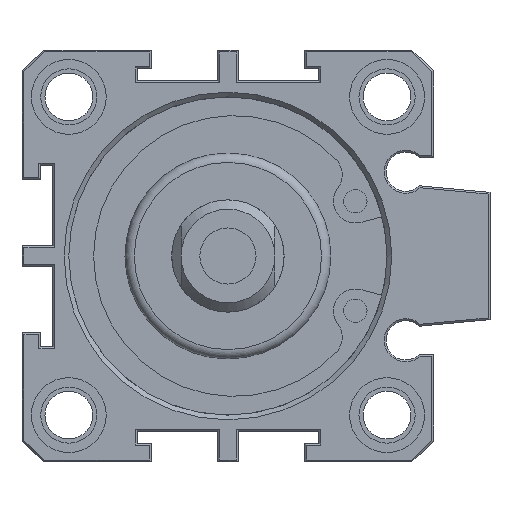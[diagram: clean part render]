
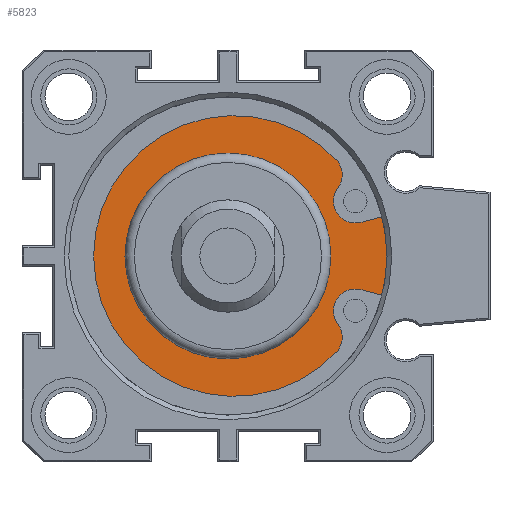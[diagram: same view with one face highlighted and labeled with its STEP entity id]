
A CAD part, front view. The second image highlights one B-rep face of the part: STEP entity #5823.
In plain terms, the highlighted planar face has unit normal (0, -1, 0).
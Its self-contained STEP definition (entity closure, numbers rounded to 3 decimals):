
#354=LINE('',#8341,#742);
#355=LINE('',#8353,#743);
#742=VECTOR('',#7038,1000.);
#743=VECTOR('',#7049,1000.);
#938=PLANE('',#6175);
#1552=ORIENTED_EDGE('',*,*,#2492,.F.);
#1553=ORIENTED_EDGE('',*,*,#2490,.F.);
#1554=ORIENTED_EDGE('',*,*,#2493,.T.);
#1555=ORIENTED_EDGE('',*,*,#2494,.T.);
#1556=ORIENTED_EDGE('',*,*,#2495,.T.);
#1557=ORIENTED_EDGE('',*,*,#2496,.T.);
#1558=ORIENTED_EDGE('',*,*,#2497,.T.);
#1559=ORIENTED_EDGE('',*,*,#2498,.T.);
#1560=ORIENTED_EDGE('',*,*,#2499,.T.);
#2490=EDGE_CURVE('',#2957,#2958,#3082,.T.);
#2492=EDGE_CURVE('',#2959,#2959,#3083,.F.);
#2493=EDGE_CURVE('',#2957,#2960,#354,.T.);
#2494=EDGE_CURVE('',#2960,#2961,#3084,.T.);
#2495=EDGE_CURVE('',#2961,#2962,#3085,.T.);
#2496=EDGE_CURVE('',#2962,#2963,#3086,.T.);
#2497=EDGE_CURVE('',#2963,#2964,#3087,.T.);
#2498=EDGE_CURVE('',#2964,#2965,#3088,.T.);
#2499=EDGE_CURVE('',#2965,#2958,#355,.T.);
#2957=VERTEX_POINT('',#8334);
#2958=VERTEX_POINT('',#8336);
#2959=VERTEX_POINT('',#8340);
#2960=VERTEX_POINT('',#8342);
#2961=VERTEX_POINT('',#8344);
#2962=VERTEX_POINT('',#8346);
#2963=VERTEX_POINT('',#8348);
#2964=VERTEX_POINT('',#8350);
#2965=VERTEX_POINT('',#8352);
#3082=CIRCLE('',#6174,17.85);
#3083=CIRCLE('',#6176,11.);
#3084=CIRCLE('',#6177,2.34);
#3085=CIRCLE('',#6178,2.34);
#3086=CIRCLE('',#6179,15.);
#3087=CIRCLE('',#6180,2.34);
#3088=CIRCLE('',#6181,2.34);
#3298=EDGE_LOOP('',(#1552));
#3299=EDGE_LOOP('',(#1553,#1554,#1555,#1556,#1557,#1558,#1559,#1560));
#3648=FACE_BOUND('',#3298,.T.);
#3649=FACE_BOUND('',#3299,.T.);
#5823=ADVANCED_FACE('',(#3648,#3649),#938,.F.);
#6174=AXIS2_PLACEMENT_3D('',#8335,#7031,#7032);
#6175=AXIS2_PLACEMENT_3D('',#8338,#7034,#7035);
#6176=AXIS2_PLACEMENT_3D('',#8339,#7036,#7037);
#6177=AXIS2_PLACEMENT_3D('',#8343,#7039,#7040);
#6178=AXIS2_PLACEMENT_3D('',#8345,#7041,#7042);
#6179=AXIS2_PLACEMENT_3D('',#8347,#7043,#7044);
#6180=AXIS2_PLACEMENT_3D('',#8349,#7045,#7046);
#6181=AXIS2_PLACEMENT_3D('',#8351,#7047,#7048);
#7031=DIRECTION('',(0.,1.,0.));
#7032=DIRECTION('',(-1.,0.,0.));
#7034=DIRECTION('',(0.,1.,0.));
#7035=DIRECTION('',(-1.,0.,0.));
#7036=DIRECTION('',(0.,1.,0.));
#7037=DIRECTION('',(-1.,0.,0.));
#7038=DIRECTION('',(-0.966,0.,-0.259));
#7039=DIRECTION('',(0.,1.,0.));
#7040=DIRECTION('',(1.,0.,0.));
#7041=DIRECTION('',(0.,-1.,0.));
#7042=DIRECTION('',(-1.,0.,0.));
#7043=DIRECTION('',(0.,-1.,0.));
#7044=DIRECTION('',(1.,0.,0.));
#7045=DIRECTION('',(0.,-1.,0.));
#7046=DIRECTION('',(-1.,0.,0.));
#7047=DIRECTION('',(0.,1.,0.));
#7048=DIRECTION('',(1.,0.,0.));
#7049=DIRECTION('',(0.966,0.,-0.259));
#8334=CARTESIAN_POINT('',(17.293,3.7,4.425));
#8335=CARTESIAN_POINT('',(0.,3.7,0.));
#8336=CARTESIAN_POINT('',(17.293,3.7,-4.425));
#8338=CARTESIAN_POINT('',(0.,3.7,-2.5));
#8339=CARTESIAN_POINT('',(0.,3.7,0.));
#8340=CARTESIAN_POINT('',(-11.,3.7,0.));
#8341=CARTESIAN_POINT('',(17.293,3.7,4.425));
#8342=CARTESIAN_POINT('',(14.218,3.7,3.601));
#8343=CARTESIAN_POINT('',(13.612,3.7,5.861));
#8344=CARTESIAN_POINT('',(11.719,3.7,7.237));
#8345=CARTESIAN_POINT('',(9.875,3.7,8.677));
#8346=CARTESIAN_POINT('',(11.688,3.7,10.157));
#8347=CARTESIAN_POINT('',(0.65,3.7,0.));
#8348=CARTESIAN_POINT('',(11.688,3.7,-10.157));
#8349=CARTESIAN_POINT('',(9.875,3.7,-8.677));
#8350=CARTESIAN_POINT('',(11.719,3.7,-7.237));
#8351=CARTESIAN_POINT('',(13.612,3.7,-5.861));
#8352=CARTESIAN_POINT('',(14.218,3.7,-3.601));
#8353=CARTESIAN_POINT('',(14.218,3.7,-3.601));
